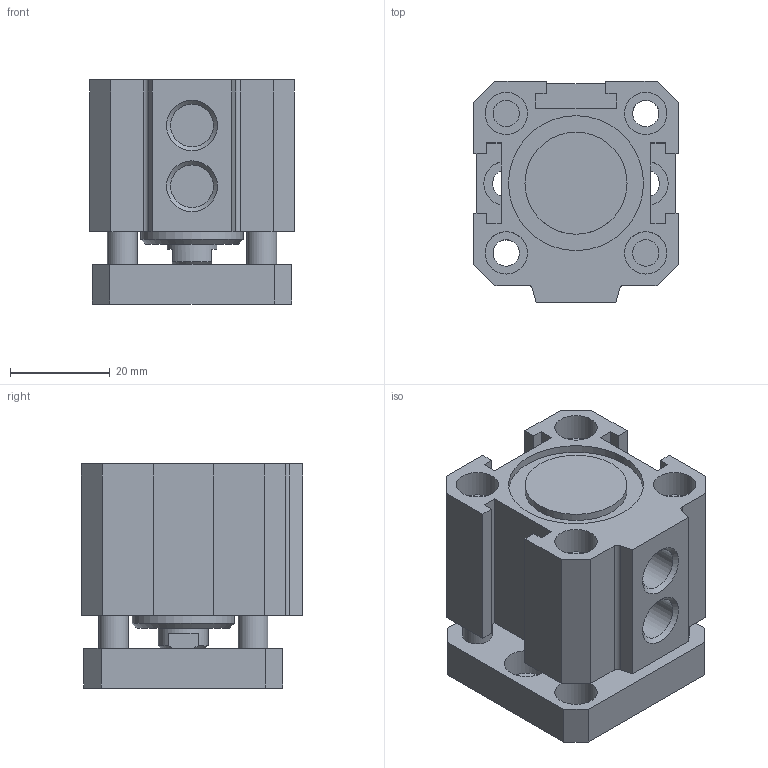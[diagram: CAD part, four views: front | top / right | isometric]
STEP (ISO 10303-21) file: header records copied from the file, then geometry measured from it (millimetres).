
FILE_DESCRIPTION(/* description */ ('TUBO PROFILATO'),/* implementation_level */ '2;1');
FILE_NAME(/* name */ 'I:\Area Tecnica\Disegni\VARIE-3D\Componenti\1500\Ø25\15##_25_####_#\1501_25_0000_AR.stp',/* time_stamp */ '2016-08-24T11:12:23+02:00',/* author */ ('Maniean1'),/* organization */ ('Pneumax S.p.A.'),/* preprocessor_version */ 'ST-DEVELOPER v15.2',/* originating_system */ 'Autodesk Inventor 2014',/* authorisation */ '');
FILE_SCHEMA (('AUTOMOTIVE_DESIGN { 1 0 10303 214 3 1 1 }'));
Length unit declared in the file: millimetre
Products named in the file (3): C_1501_25_0000_AR; S_1501_25_0000_AR; 1501_25_0000_AR
Bounding box: 41 x 44.5 x 45 mm (x, y, z)
Volume: 52158.1 mm3; surface area: 23555.4 mm2
Topology: 2 solids, 2 shells, 113 faces, 261 edges, 174 vertices
Faces by surface type: plane 74, cylinder 34, cone 5
Full cylindrical faces by diameter (mm): 4.134 x2, 5.3 x4, 5.5 x2, 6 x4, 8.5 x8, 8.566 x2, 9 x2, 10 x2, 20.5 x2, 25 x2, 27.1 x2
Entity records: 3187 total; most frequent: DIRECTION 530, CARTESIAN_POINT 518, ORIENTED_EDGE 444, EDGE_CURVE 222, AXIS2_PLACEMENT_3D 194, EDGE_LOOP 190, VERTEX_POINT 170, LINE 142
